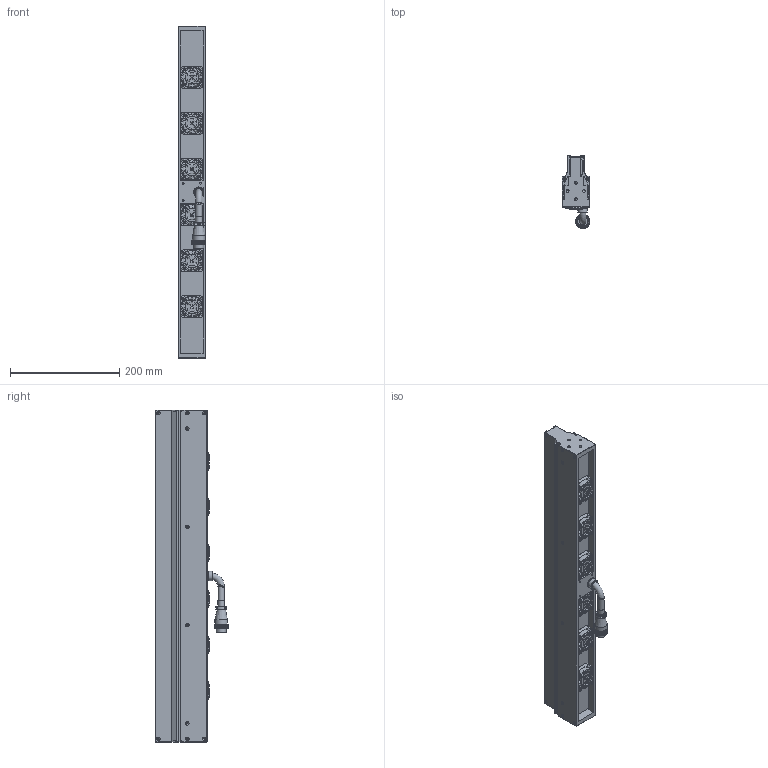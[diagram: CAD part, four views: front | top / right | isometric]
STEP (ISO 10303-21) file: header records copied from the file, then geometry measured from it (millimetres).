
FILE_DESCRIPTION (( 'STEP AP203' ), '1' );
FILE_NAME ('OPT-LSS608-W-V3.1U尨砩芞.STEP', '2025-01-21T05:53:45', ( 'USER' ), ( '' ), 'SwSTEP 2.0', 'SolidWorks 2016', '' );
FILE_SCHEMA (( 'CONFIG_CONTROL_DESIGN' ));
Products named in the file (2): OPT-LSS608-W-V3.1U尨砩芞
Bounding box: 50.6 x 133 x 608 mm (x, y, z)
Volume: 2066487.7 mm3; surface area: 353335.8 mm2
Topology: 30 solids, 46 shells, 3214 faces, 8099 edges, 5109 vertices
Faces by surface type: bspline 1105, cylinder 967, plane 745, torus 342, cone 55
Full cylindrical faces by diameter (mm): 1 x2, 1.1 x2, 1.4 x2, 1.6 x24, 2 x6, 2.5 x24, 3 x4, 3.2 x28, 3.4 x20, 3.5 x12, 5 x8, 6.2 x24, 8 x1, 11.6 x1, 11.7 x3, 12 x1, 15 x1, 15.9 x1, 17.5 x1, 18 x1, 18.5 x1, 22.8 x1, 24 x1, 24.8 x6, 38 x6
Entity records: 117978 total; most frequent: CARTESIAN_POINT 53859, ORIENTED_EDGE 15230, DIRECTION 9165, EDGE_CURVE 7615, VERTEX_POINT 4998, B_SPLINE_CURVE_WITH_KNOTS 4359, AXIS2_PLACEMENT_3D 3806, EDGE_LOOP 3765
